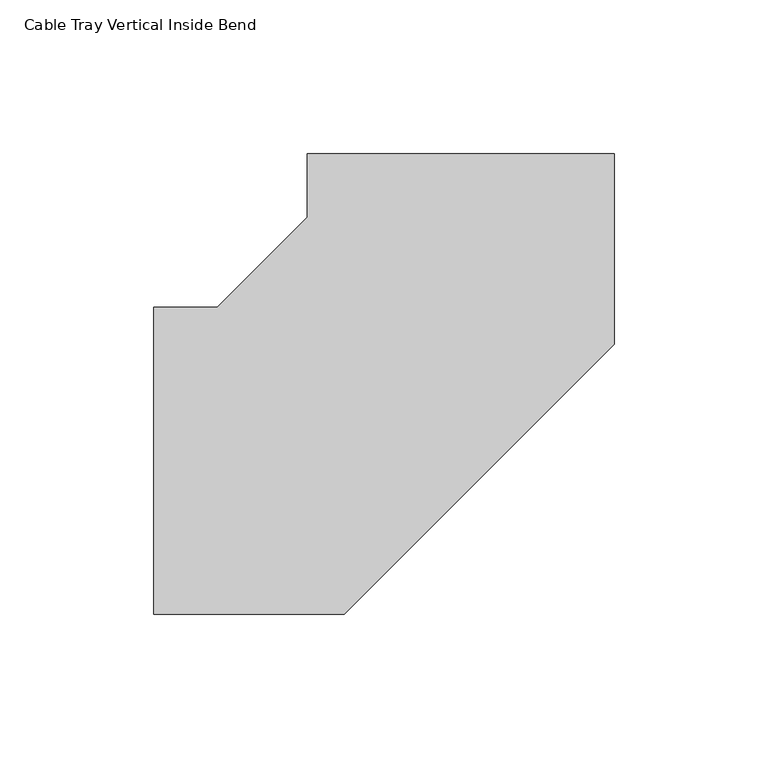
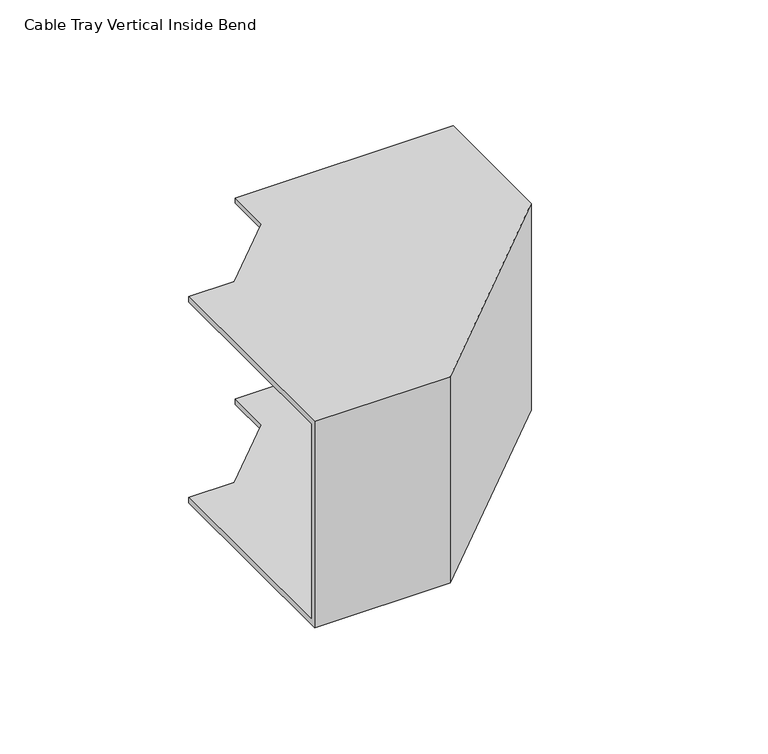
"""IFC4 building model written with IfcOpenShell, lengths in millimetres: cable carrier fitting geometry, Cable Tray Vertical Inside Bend : ELEC_ELV_TKG_N2402."""

from ifc_helpers import new_model, si_unit, origin, place, context, project, spatial, faceted_brep, source, transform, mapped, element, save


def cable_tray_vertical_inside_bend_abb6d1f4(model_context):
    return source(origin(), model_context, "Body", "Brep", [
        faceted_brep([(-99.9870185, 50.0, 50.0), (-99.9870185, 50.0, 47.46), (-99.9870185, -47.46, 47.46), (-99.9870185, -47.46, -47.46), (-99.9870185, 50.0, -47.46), (-99.9870185, 50.0, -50.0), (-99.9870185, -50.0, -50.0), (-99.9870185, -50.0, 50.0), (-49.9870189, 99.9935088, 50.0), (50.0129803, 99.9805265, 50.0), (50.0129803, 99.9805265, -50.0), (-49.9870189, 99.9935088, -50.0), (-49.9870189, 99.9935088, -47.46), (47.4729803, 99.9808562, -47.46), (47.4729803, 99.9808562, 47.46), (-49.9870189, 99.9935088, 47.46), (-79.2782416, 50.0, 50.0), (-79.2782416, 50.0, 47.46), (-49.9897074, 79.2847321, 47.46), (47.4650514, 38.9065318, 47.46), (-38.9126936, -47.46, 47.46), (-38.9126936, -47.46, -47.46), (47.4650514, 38.9065318, -47.46), (-49.9897074, 79.2847321, -47.46), (-79.2782416, 50.0, -47.46), (-79.2782416, 50.0, -50.0), (-49.9897074, 79.2847321, -50.0), (50.0049148, 37.8541962, -50.0), (-37.8606877, -50.0, -50.0), (-37.8606877, -50.0, 50.0), (50.0049148, 37.8541962, 50.0), (-49.9897074, 79.2847321, 50.0)], [[[0, 1, 2, 3, 4, 5, 6, 7]], [[8, 9, 10, 11, 12, 13, 14, 15]], [[1, 0, 16, 17]], [[2, 1, 17, 18, 15, 14, 19, 20]], [[3, 2, 20, 21]], [[4, 3, 21, 22, 13, 12, 23, 24]], [[5, 4, 24, 25]], [[6, 5, 25, 26, 11, 10, 27, 28]], [[7, 6, 28, 29]], [[0, 7, 29, 30, 9, 8, 31, 16]], [[17, 16, 31, 18]], [[21, 20, 19, 22]], [[25, 24, 23, 26]], [[29, 28, 27, 30]], [[18, 31, 8, 15]], [[22, 19, 14, 13]], [[26, 23, 12, 11]], [[30, 27, 10, 9]]]),
    ])


if __name__ == "__main__":
    model = new_model("IFC4")
    model_context = context("Model", 3, world=origin())
    ifc_project = project(units=[si_unit("LENGTHUNIT", "METRE", prefix="MILLI")], contexts=[model_context])
    site = spatial("IfcSite", under=ifc_project)
    building = spatial("IfcBuilding", under=site)
    placement = place(None, origin())
    cable_tray_vertical_inside_bend_shape = cable_tray_vertical_inside_bend_abb6d1f4(model_context)
    element("IfcCableCarrierFitting", 1, ObjectType="Cable Tray Vertical Inside Bend : ELEC_ELV_TKG_N2402", at=placement, inside=building, context=model_context, shape_type="MappedRepresentation", body=[
        mapped(cable_tray_vertical_inside_bend_shape, transform((0.0, 0.0, 0.0), x_axis=(1.0, 0.0, 0.0), y_axis=(0.0, 1.0, 0.0), z_axis=(0.0, 0.0, 1.0))),
    ])
    save(model, "model.ifc")
